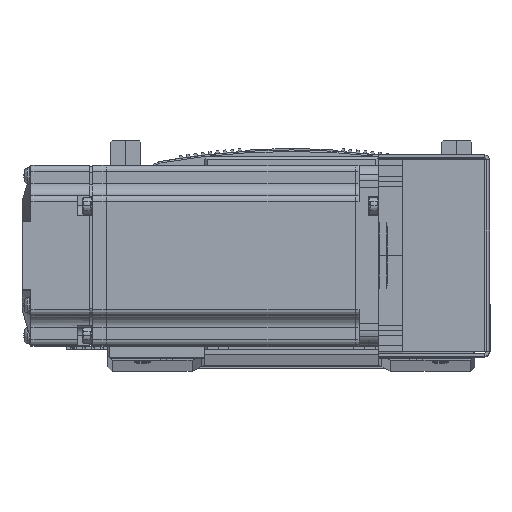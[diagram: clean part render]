
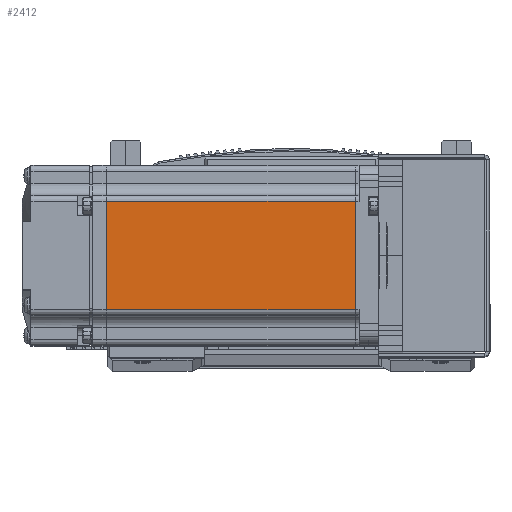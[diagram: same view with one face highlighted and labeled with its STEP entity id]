
A CAD part, top view. The second image highlights one B-rep face of the part: STEP entity #2412.
In plain terms, the highlighted planar face has unit normal (0, 0, 1) as drawn and (0, 1, 0) by its records, which use the part's own axes.
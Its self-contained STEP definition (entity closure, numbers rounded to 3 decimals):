
#2412 = ADVANCED_FACE ( 'NONE', ( #51981 ), #99956, .T. ) ;
#9277 = LINE ( 'NONE', #15242, #9282 ) ;
#9282 = VECTOR ( 'NONE', #15193, 1000. ) ;
#11761 = LINE ( 'NONE', #14834, #11764 ) ;
#11764 = VECTOR ( 'NONE', #14802, 1000. ) ;
#11791 = LINE ( 'NONE', #14840, #11794 ) ;
#11794 = VECTOR ( 'NONE', #14822, 1000. ) ;
#12027 = LINE ( 'NONE', #15021, #12135 ) ;
#12135 = VECTOR ( 'NONE', #15030, 1000. ) ;
#14802 = DIRECTION ( 'NONE',  ( -1., 0., 0. ) ) ;
#14822 = DIRECTION ( 'NONE',  ( 1., 0., 0. ) ) ;
#14834 = CARTESIAN_POINT ( 'NONE',  ( -6.5, 30., -18. ) ) ;
#14840 = CARTESIAN_POINT ( 'NONE',  ( -6.5, 30., 18. ) ) ;
#15021 = CARTESIAN_POINT ( 'NONE',  ( -7.75, 30., 0. ) ) ;
#15030 = DIRECTION ( 'NONE',  ( 0., 0., 1. ) ) ;
#15193 = DIRECTION ( 'NONE',  ( 0., 0., 1. ) ) ;
#15242 = CARTESIAN_POINT ( 'NONE',  ( -90.45, 30., 0. ) ) ;
#21934 = CARTESIAN_POINT ( 'NONE',  ( -7.75, 30., 18. ) ) ;
#21954 = CARTESIAN_POINT ( 'NONE',  ( -7.75, 30., -18. ) ) ;
#22112 = CARTESIAN_POINT ( 'NONE',  ( -90.45, 30., 18. ) ) ;
#22129 = CARTESIAN_POINT ( 'NONE',  ( -90.45, 30., -18. ) ) ;
#51981 = FACE_OUTER_BOUND ( 'NONE', #64828, .T. ) ;
#58147 = AXIS2_PLACEMENT_3D ( 'NONE', #99986, #99992, #99994 ) ;
#64828 = EDGE_LOOP ( 'NONE', ( #67036, #66720, #67018, #66956 ) ) ;
#66720 = ORIENTED_EDGE ( 'NONE', *, *, #69325, .T. ) ;
#66956 = ORIENTED_EDGE ( 'NONE', *, *, #69330, .T. ) ;
#67018 = ORIENTED_EDGE ( 'NONE', *, *, #69393, .T. ) ;
#67036 = ORIENTED_EDGE ( 'NONE', *, *, #69352, .F. ) ;
#69325 = EDGE_CURVE ( 'NONE', #95521, #95643, #11761, .T. ) ;
#69330 = EDGE_CURVE ( 'NONE', #95623, #95459, #11791, .T. ) ;
#69352 = EDGE_CURVE ( 'NONE', #95521, #95459, #12027, .T. ) ;
#69393 = EDGE_CURVE ( 'NONE', #95643, #95623, #9277, .T. ) ;
#95459 = VERTEX_POINT ( 'NONE', #21934 ) ;
#95521 = VERTEX_POINT ( 'NONE', #21954 ) ;
#95623 = VERTEX_POINT ( 'NONE', #22112 ) ;
#95643 = VERTEX_POINT ( 'NONE', #22129 ) ;
#99956 = PLANE ( 'NONE',  #58147 ) ;
#99986 = CARTESIAN_POINT ( 'NONE',  ( -6.5, 30., 25. ) ) ;
#99992 = DIRECTION ( 'NONE',  ( 0., 1., 0. ) ) ;
#99994 = DIRECTION ( 'NONE',  ( 0., 0., 1. ) ) ;
